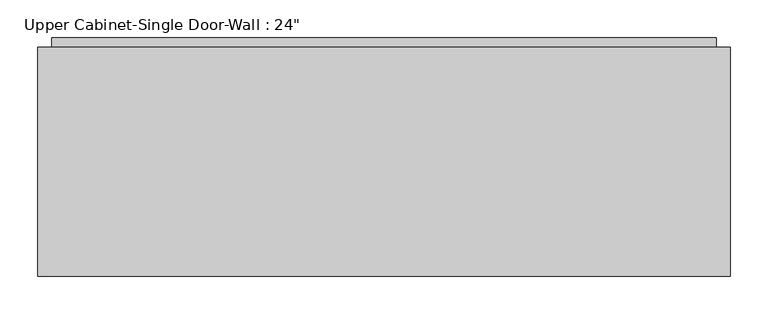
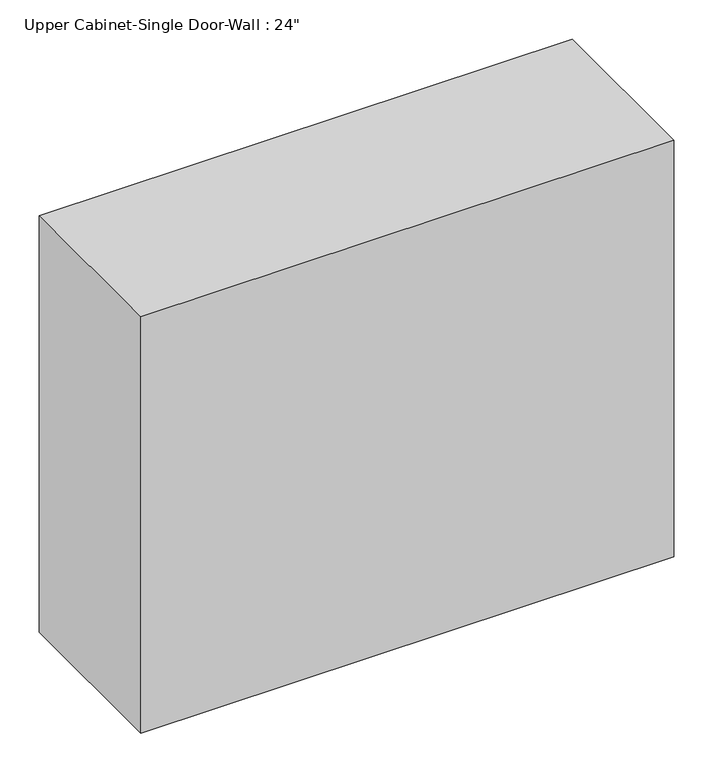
"""IFC4 building model written with IfcOpenShell, lengths in millimetres: furniture geometry."""

import ifcopenshell
import ifcopenshell.guid

model = None  # the IFC model being written
_history = None  # IfcOwnerHistory: only IFC2X3 demands one
_inside = {}  # id of a spatial element -> (the spatial element, [elements in it])
_under = {}  # id of a project, library or spatial element -> (it, [spatial elements below it])
_declared = {}  # id of a project -> (the project, [libraries it declares])
_typed = {}  # id of a type object -> (the type object, [elements of that type])
_made_of = {}  # id of a material, layer set ... -> (it, [elements and type objects made of it])


def new_model(schema):
    """Start an empty IFC model of exactly this schema.

    Asked for "IFC4X3", IfcOpenShell would pick the latest addendum, in which some entities
    have other attributes; the version numbers below select the first issue.
    IFC2X3 requires an IfcOwnerHistory on every rooted entity: one is made here for all.
    """
    global model, _history
    if schema == "IFC4X3":
        model = ifcopenshell.file(schema_version=(4, 3, 0, 0))
    else:
        model = ifcopenshell.file(schema=schema)
    _inside.clear()
    _under.clear()
    _declared.clear()
    _typed.clear()
    _made_of.clear()
    _history = None
    if model.schema == "IFC2X3":
        org = make("IfcOrganization", Name="unknown")
        user = make(
            "IfcPersonAndOrganization",
            ThePerson=make("IfcPerson", FamilyName="unknown"),
            TheOrganization=org,
        )
        app = make(
            "IfcApplication",
            ApplicationDeveloper=org,
            Version="unknown",
            ApplicationFullName="unknown",
            ApplicationIdentifier="unknown",
        )
        _history = make(
            "IfcOwnerHistory",
            OwningUser=user,
            OwningApplication=app,
            ChangeAction="ADDED",
            CreationDate=0,
        )
    return model


def make(cls, **values):
    """One entity of the class cls with the attributes given. An attribute that is None is left unset."""
    return model.create_entity(
        cls, **{name: value for name, value in values.items() if value is not None}
    )


def rooted(cls, **values):
    """An entity with a GlobalId (a new one), such as an element, a storey or a relation."""
    return make(cls, GlobalId=ifcopenshell.guid.new(), OwnerHistory=_history, **values)


def si_unit(unit_type, name, prefix=None):
    """IfcSIUnit, for example si_unit("LENGTHUNIT", "METRE", prefix="MILLI")."""
    return make("IfcSIUnit", UnitType=unit_type, Prefix=prefix, Name=name)


def assignment(units):
    """IfcUnitAssignment: the units of a project."""
    return None if units is None else make("IfcUnitAssignment", Units=units)


def point(xyz):
    """IfcCartesianPoint."""
    return None if xyz is None else make("IfcCartesianPoint", Coordinates=xyz)


def direction(xyz):
    """IfcDirection."""
    return None if xyz is None else make("IfcDirection", DirectionRatios=xyz)


def frame(location, z_axis=None, x_axis=None):
    """IfcAxis2Placement3D, a coordinate frame: its origin and axes. An axis left out is left unset."""
    return make(
        "IfcAxis2Placement3D",
        Location=point(location),
        Axis=direction(z_axis),
        RefDirection=direction(x_axis),
    )


def origin():
    """The frame at (0, 0, 0) with its axes left unset."""
    return frame((0.0, 0.0, 0.0))


def place(relative_to, where):
    """IfcLocalPlacement: puts the frame where relative to a parent placement (None: the world)."""
    return make(
        "IfcLocalPlacement", PlacementRelTo=relative_to, RelativePlacement=where
    )


def context(
    kind, dimensions, precision=None, world=None, true_north=None, identifier=None
):
    """IfcGeometricRepresentationContext, for example the 3D "Model" context."""
    return make(
        "IfcGeometricRepresentationContext",
        ContextIdentifier=identifier,
        ContextType=kind,
        CoordinateSpaceDimension=dimensions,
        Precision=precision,
        WorldCoordinateSystem=world,
        TrueNorth=true_north,
    )


def project(units=None, contexts=None):
    """IfcProject with its units and contexts."""
    return rooted(
        "IfcProject",
        Name="project",
        RepresentationContexts=contexts,
        UnitsInContext=assignment(units),
    )


def spatial(cls, under=None, at=None, **own):
    """A site, building, storey or space (cls), placed at a placement, below another one or the project."""
    s = rooted(cls, ObjectPlacement=at, **own)
    if under is not None:
        _under.setdefault(under.id(), (under, []))[1].append(s)
    return s


def polyline(points):
    """IfcPolyline through the points."""
    return make("IfcPolyline", Points=[point(p) for p in points])


def outline(outer, holes=None, kind="AREA"):
    """IfcArbitraryClosedProfileDef: a profile drawn as a closed curve; with holes, ...WithVoids."""
    if holes is None:
        return make("IfcArbitraryClosedProfileDef", ProfileType=kind, OuterCurve=outer)
    return make(
        "IfcArbitraryProfileDefWithVoids",
        ProfileType=kind,
        OuterCurve=outer,
        InnerCurves=holes,
    )


def extrude(swept, where, along, depth):
    """IfcExtrudedAreaSolid: the profile swept, set in the frame where, extruded along a direction by depth."""
    return make(
        "IfcExtrudedAreaSolid",
        SweptArea=swept,
        Position=where,
        ExtrudedDirection=direction(along),
        Depth=depth,
    )


def faces_of(points, faces, orient=None, outer=None):
    """IfcFace entities. A face is a list of loops; a loop is a list of indices into points, from 0.

    orient and outer hold one flag for each loop. By default every Orientation is true, the
    first loop of a face is its IfcFaceOuterBound and the others are IfcFaceBound.
    """
    made = []
    for i, loops in enumerate(faces):
        bounds = []
        for j, loop in enumerate(loops):
            is_outer = j == 0 if outer is None else outer[i][j]
            bounds.append(
                make(
                    "IfcFaceOuterBound" if is_outer else "IfcFaceBound",
                    Bound=make("IfcPolyLoop", Polygon=[points[k] for k in loop]),
                    Orientation=True if orient is None else orient[i][j],
                )
            )
        made.append(make("IfcFace", Bounds=bounds))
    return made


def faceted_brep(points, faces, orient=None, outer=None, voids=None):
    """IfcFacetedBrep: a solid bounded by flat faces; with voids (closed shells), ...WithVoids."""
    shared = [point(p) for p in points]
    hull = make("IfcClosedShell", CfsFaces=faces_of(shared, faces, orient, outer))
    if voids is None:
        return make("IfcFacetedBrep", Outer=hull)
    return make(
        "IfcFacetedBrepWithVoids",
        Outer=hull,
        Voids=[
            make(cls, CfsFaces=faces_of(shared, fs, o, b)) for cls, fs, o, b in voids
        ],
    )


def shape(context_of_items, identifier, shape_type, items):
    """IfcShapeRepresentation: the items that make up one representation, for example the "Body"."""
    return make(
        "IfcShapeRepresentation",
        ContextOfItems=context_of_items,
        RepresentationIdentifier=identifier,
        RepresentationType=shape_type,
        Items=items,
    )


def source(mapping_origin, context_of_items, identifier, shape_type, items):
    """IfcRepresentationMap: a shape defined once, which mapped items show again and again."""
    return make(
        "IfcRepresentationMap",
        MappingOrigin=mapping_origin,
        MappedRepresentation=shape(context_of_items, identifier, shape_type, items),
    )


def transform(
    local_origin,
    x_axis=None,
    y_axis=None,
    z_axis=None,
    scale=None,
    scale2=None,
    scale3=None,
    uniform=True,
):
    """IfcCartesianTransformationOperator3D, or its non-uniform kind. x_axis, y_axis, z_axis: its Axis1, 2, 3."""
    if uniform:
        return make(
            "IfcCartesianTransformationOperator3D",
            Axis1=direction(x_axis),
            Axis2=direction(y_axis),
            LocalOrigin=point(local_origin),
            Scale=scale,
            Axis3=direction(z_axis),
        )
    return make(
        "IfcCartesianTransformationOperator3DnonUniform",
        Axis1=direction(x_axis),
        Axis2=direction(y_axis),
        LocalOrigin=point(local_origin),
        Scale=scale,
        Axis3=direction(z_axis),
        Scale2=scale2,
        Scale3=scale3,
    )


def mapped(mapping_source, mapping_target):
    """IfcMappedItem: shows the shape of a source again, moved by a transform."""
    return make(
        "IfcMappedItem", MappingSource=mapping_source, MappingTarget=mapping_target
    )


def made_of(thing, what):
    """Note that an element or type object is made of a material, layer set ...; save() writes the relation."""
    if what is not None:
        _made_of.setdefault(what.id(), (what, []))[1].append(thing)
    return thing


def element(
    cls,
    number,
    at=None,
    inside=None,
    cuts=None,
    type_object=None,
    material=None,
    context=None,
    identifier="Body",
    shape_type=None,
    held_by="IfcProductDefinitionShape",
    body=None,
    shapes=None,
    **own,
):
    """One element of the class cls, such as IfcWall. Its Tag is "e" and its number.

    at: its placement. inside: the storey or other place that contains it. cuts: it is an
    opening in that element (IfcRelVoidsElement). A single representation is given by context,
    identifier, shape_type and body (its items); several are given by shapes. held_by: the class
    of the entity that holds the representations. save() writes the other relations.
    """
    e = rooted(cls, Tag="e%d" % number, ObjectPlacement=at, **own)
    if body is not None:
        shapes = [shape(context, identifier, shape_type, body)]
    if shapes is not None:
        e.Representation = make(held_by, Representations=shapes)
    if inside is not None:
        _inside.setdefault(inside.id(), (inside, []))[1].append(e)
    if cuts is not None:
        rooted(
            "IfcRelVoidsElement", RelatingBuildingElement=cuts, RelatedOpeningElement=e
        )
    if type_object is not None:
        _typed.setdefault(type_object.id(), (type_object, []))[1].append(e)
    return made_of(e, material)


def aggregate(whole, parts):
    """IfcRelAggregates: a whole, such as a stair, and the parts it consists of."""
    return rooted("IfcRelAggregates", RelatingObject=whole, RelatedObjects=parts)


def save(model, path):
    """Write the relations noted so far, then the file.

    IfcRelAggregates (storeys below a building ...), IfcRelContainedInSpatialStructure (elements
    in a storey), IfcRelDefinesByType, IfcRelAssociatesMaterial and IfcRelDeclares: one each for
    every whole, place, type object, material and project.
    """
    for whole, parts in _under.values():
        aggregate(whole, parts)
    for where, things in _inside.values():
        rooted(
            "IfcRelContainedInSpatialStructure",
            RelatedElements=things,
            RelatingStructure=where,
        )
    for kind, things in _typed.values():
        rooted("IfcRelDefinesByType", RelatedObjects=things, RelatingType=kind)
    for what, things in _made_of.values():
        rooted("IfcRelAssociatesMaterial", RelatedObjects=things, RelatingMaterial=what)
    for by, libraries in _declared.values():
        rooted("IfcRelDeclares", RelatingContext=by, RelatedDefinitions=libraries)
    model.write(path)


def furniture_54aba5f5(model_context):
    return source(origin(), model_context, "Body", "SolidModel", [
        faceted_brep([(-663.9080876, 57.15, 2133.6), (-663.9080876, 57.15, 1371.6), (258.3711628, 57.15, 1371.6), (258.3711628, 57.15, 2133.6), (-663.9080876, 361.95, 2133.6), (258.3711628, 361.95, 2133.6), (258.3711628, 361.95, 1371.6), (-663.9080876, 361.95, 1371.6), (-644.8580876, 361.95, 2114.55), (-644.8580876, 361.95, 1390.65), (239.3211628, 361.95, 1390.65), (239.3211628, 361.95, 2114.55), (239.3211628, 76.2, 2114.55), (-644.8580876, 76.2, 2114.55), (239.3211628, 76.2, 1390.65), (-644.8580876, 76.2, 1390.65)], [[[0, 1, 2, 3]], [[4, 5, 6, 7], [8, 9, 10, 11]], [[1, 0, 4, 7]], [[2, 1, 7, 6]], [[3, 2, 6, 5]], [[0, 3, 5, 4]], [[8, 11, 12, 13]], [[11, 10, 14, 12]], [[10, 9, 15, 14]], [[9, 8, 13, 15]], [[13, 12, 14, 15]]]),
        extrude(outline(polyline([(-644.8580876, 374.65), (239.3211628, 374.65), (239.3211628, 342.9), (-644.8580876, 342.9), (-644.8580876, 374.65)])), frame((0.0, 0.0, 1390.65), z_axis=(0.0, 0.0, 1.0), x_axis=(1.0, 0.0, 0.0)), (0.0, 0.0, 1.0), 723.9),
    ])


if __name__ == "__main__":
    model = new_model("IFC4")
    model_context = context("Model", 3, world=origin())
    ifc_project = project(units=[si_unit("LENGTHUNIT", "METRE", prefix="MILLI")], contexts=[model_context])
    site = spatial("IfcSite", under=ifc_project)
    building = spatial("IfcBuilding", under=site)
    placement = place(None, origin())
    furniture_shape = furniture_54aba5f5(model_context)
    element("IfcFurniture", 1, ObjectType="Upper Cabinet-Single Door-Wall : 24\"", at=placement, inside=building, context=model_context, shape_type="MappedRepresentation", body=[
        mapped(furniture_shape, transform((0.0, 0.0, 0.0), x_axis=(1.0, 0.0, 0.0), y_axis=(0.0, 1.0, 0.0), z_axis=(0.0, 0.0, 1.0))),
    ])
    save(model, "model.ifc")
